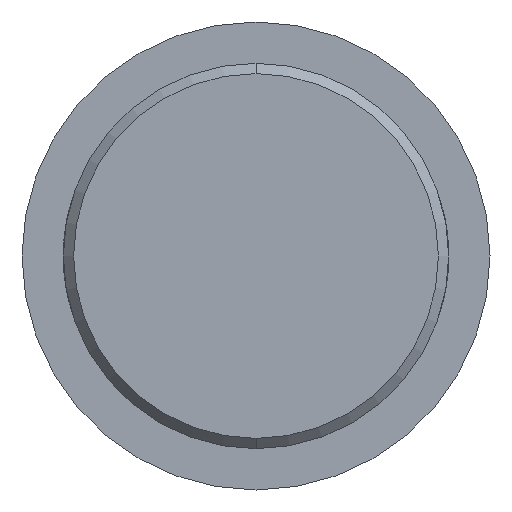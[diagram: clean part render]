
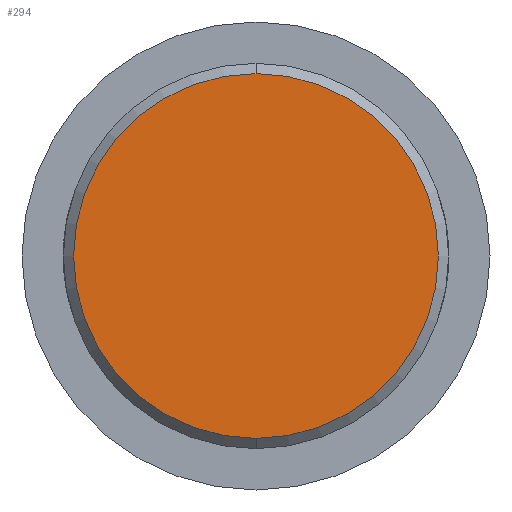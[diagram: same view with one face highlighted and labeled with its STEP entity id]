
A CAD part, front view. The second image highlights one B-rep face of the part: STEP entity #294.
In plain terms, the highlighted planar face has unit normal (0, -1, 0).
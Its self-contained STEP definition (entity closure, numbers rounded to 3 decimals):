
#4 = AXIS2_PLACEMENT_3D ( 'NONE', #173, #475, #47 ) ;
#47 = DIRECTION ( 'NONE',  ( 0., 0., -1. ) ) ;
#109 = CIRCLE ( 'NONE', #491, 13.25 ) ;
#119 = DIRECTION ( 'NONE',  ( 0., 0., -1. ) ) ;
#154 = DIRECTION ( 'NONE',  ( 0., 0., -1. ) ) ;
#158 = CARTESIAN_POINT ( 'NONE',  ( 0., -72., 0. ) ) ;
#173 = CARTESIAN_POINT ( 'NONE',  ( 0., -72., 0. ) ) ;
#190 = VERTEX_POINT ( 'NONE', #515 ) ;
#197 = DIRECTION ( 'NONE',  ( 0., -1., 0. ) ) ;
#237 = CARTESIAN_POINT ( 'NONE',  ( 0., -72., 0. ) ) ;
#276 = CIRCLE ( 'NONE', #297, 13.25 ) ;
#279 = EDGE_LOOP ( 'NONE', ( #330, #501 ) ) ;
#289 = FACE_OUTER_BOUND ( 'NONE', #279, .T. ) ;
#291 = DIRECTION ( 'NONE',  ( 0., -1., 0. ) ) ;
#294 = ADVANCED_FACE ( 'NONE', ( #289 ), #462, .T. ) ;
#297 = AXIS2_PLACEMENT_3D ( 'NONE', #237, #197, #154 ) ;
#320 = CARTESIAN_POINT ( 'NONE',  ( 0., -72., -13.25 ) ) ;
#330 = ORIENTED_EDGE ( 'NONE', *, *, #402, .T. ) ;
#402 = EDGE_CURVE ( 'NONE', #190, #525, #276, .T. ) ;
#418 = EDGE_CURVE ( 'NONE', #525, #190, #109, .T. ) ;
#462 = PLANE ( 'NONE',  #4 ) ;
#475 = DIRECTION ( 'NONE',  ( 0., -1., 0. ) ) ;
#491 = AXIS2_PLACEMENT_3D ( 'NONE', #158, #291, #119 ) ;
#501 = ORIENTED_EDGE ( 'NONE', *, *, #418, .T. ) ;
#515 = CARTESIAN_POINT ( 'NONE',  ( 0., -72., 13.25 ) ) ;
#525 = VERTEX_POINT ( 'NONE', #320 ) ;
